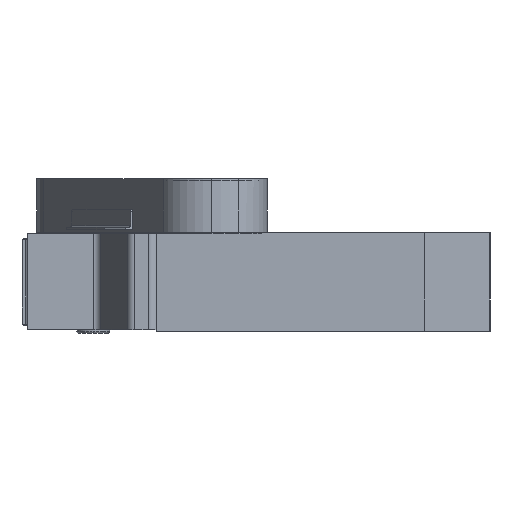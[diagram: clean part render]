
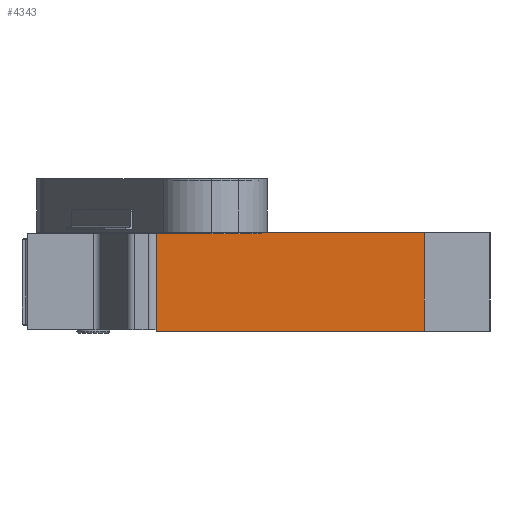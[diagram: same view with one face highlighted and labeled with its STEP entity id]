
A CAD part, left-side view. The second image highlights one B-rep face of the part: STEP entity #4343.
In plain terms, the highlighted planar face has unit normal (-1, 0, 0).
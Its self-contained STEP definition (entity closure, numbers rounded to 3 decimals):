
#448 = CARTESIAN_POINT ( 'NONE',  ( -48.14, -76.68, -118.5 ) ) ;
#768 = VERTEX_POINT ( 'NONE', #10753 ) ;
#801 = DIRECTION ( 'NONE',  ( 0., -1., 0. ) ) ;
#958 = EDGE_CURVE ( 'NONE', #15047, #3374, #6395, .T. ) ;
#1507 = LINE ( 'NONE', #6154, #2547 ) ;
#1674 = CARTESIAN_POINT ( 'NONE',  ( -48.14, 0., -118.5 ) ) ;
#1820 = LINE ( 'NONE', #11516, #10152 ) ;
#2270 = ORIENTED_EDGE ( 'NONE', *, *, #958, .F. ) ;
#2547 = VECTOR ( 'NONE', #801, 1000. ) ;
#3374 = VERTEX_POINT ( 'NONE', #13825 ) ;
#3562 = AXIS2_PLACEMENT_3D ( 'NONE', #1674, #10771, #12070 ) ;
#3649 = CARTESIAN_POINT ( 'NONE',  ( -48.14, -402.877, 1.5 ) ) ;
#3926 = VECTOR ( 'NONE', #13312, 1000. ) ;
#4026 = EDGE_LOOP ( 'NONE', ( #11731, #2270, #16499, #10076 ) ) ;
#4186 = CARTESIAN_POINT ( 'NONE',  ( -48.14, -402.877, -118.5 ) ) ;
#4193 = FACE_OUTER_BOUND ( 'NONE', #4026, .T. ) ;
#4343 = ADVANCED_FACE ( 'NONE', ( #4193 ), #9490, .T. ) ;
#5811 = DIRECTION ( 'NONE',  ( 0., 0., 1. ) ) ;
#5876 = EDGE_CURVE ( 'NONE', #3374, #10360, #1820, .T. ) ;
#6154 = CARTESIAN_POINT ( 'NONE',  ( -48.14, 0., -118.5 ) ) ;
#6395 = LINE ( 'NONE', #448, #16344 ) ;
#7006 = CARTESIAN_POINT ( 'NONE',  ( -48.14, -76.68, -118.5 ) ) ;
#7596 = LINE ( 'NONE', #4186, #3926 ) ;
#9134 = DIRECTION ( 'NONE',  ( 0., -1., 0. ) ) ;
#9490 = PLANE ( 'NONE',  #3562 ) ;
#9932 = EDGE_CURVE ( 'NONE', #768, #10360, #7596, .T. ) ;
#10076 = ORIENTED_EDGE ( 'NONE', *, *, #9932, .T. ) ;
#10152 = VECTOR ( 'NONE', #9134, 1000. ) ;
#10360 = VERTEX_POINT ( 'NONE', #3649 ) ;
#10753 = CARTESIAN_POINT ( 'NONE',  ( -48.14, -402.877, -118.5 ) ) ;
#10771 = DIRECTION ( 'NONE',  ( -1., 0., 0. ) ) ;
#11516 = CARTESIAN_POINT ( 'NONE',  ( -48.14, 0., 1.5 ) ) ;
#11731 = ORIENTED_EDGE ( 'NONE', *, *, #5876, .F. ) ;
#12070 = DIRECTION ( 'NONE',  ( 0., 0., 1. ) ) ;
#13312 = DIRECTION ( 'NONE',  ( 0., 0., 1. ) ) ;
#13491 = EDGE_CURVE ( 'NONE', #15047, #768, #1507, .T. ) ;
#13825 = CARTESIAN_POINT ( 'NONE',  ( -48.14, -76.68, 1.5 ) ) ;
#15047 = VERTEX_POINT ( 'NONE', #7006 ) ;
#16344 = VECTOR ( 'NONE', #5811, 1000. ) ;
#16499 = ORIENTED_EDGE ( 'NONE', *, *, #13491, .T. ) ;
